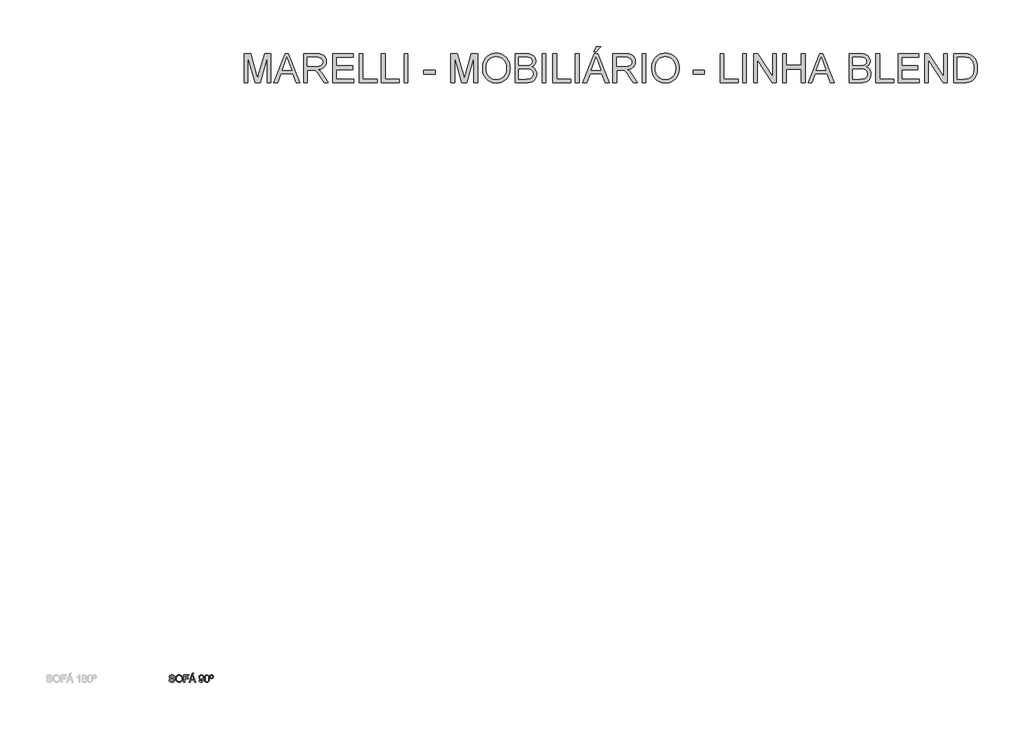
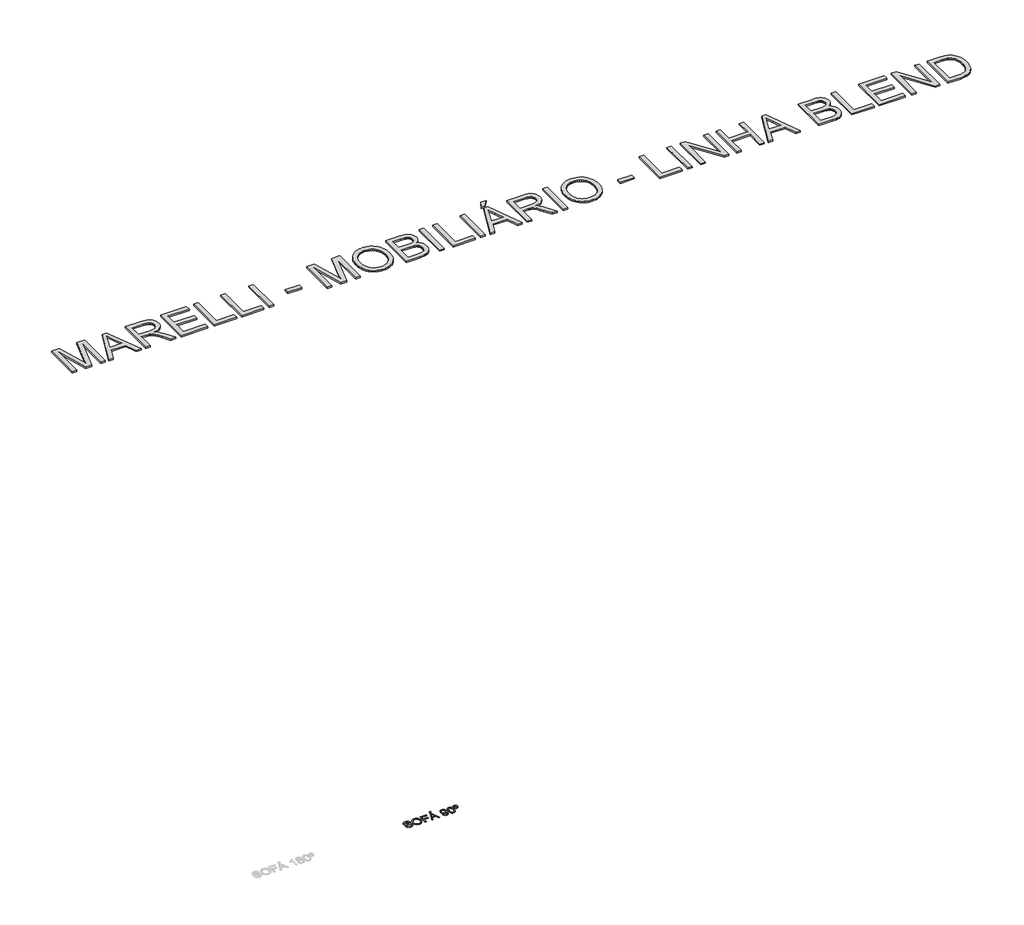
# One storey, part 4 of 4: 2 proxies.
"""IFC4 building model written with IfcOpenShell, lengths in millimetres."""

from ifc_helpers import new_model, si_unit, origin, origin_with_axes, place, context, project, spatial, polyline, outline, extrude, element, save

model = new_model("IFC4")

# Units and contexts
model_context = context("Model", 3, world=origin())
ifc_project = project(units=[si_unit("LENGTHUNIT", "METRE", prefix="MILLI")], contexts=[model_context])

# Site, building, storey
site = spatial("IfcSite", under=ifc_project)
building = spatial("IfcBuilding", under=site)
storey = spatial("IfcBuildingStorey", under=building, Name="Marelli - Linha BLEND - Planta Baixa", Elevation=0.0)

# Proxies
placement = place(None, origin())
element("IfcBuildingElementProxy", 1, Name="1200mm Arial", ObjectType="1200mm Arial", at=placement, inside=storey, context=model_context, shape_type="SweptSolid", body=[
    extrude(outline(polyline([(8126.2755525, 30769.4336799), (8126.2755525, 31974.9094017), (8385.5587827, 31974.9094017), (8632.1868722, 31125.2491457), (8681.924518, 30947.7828712), (8735.7824421, 31139.9644255), (8978.2902533, 31974.9094017), (9237.5734835, 31974.9094017), (9237.5734835, 30769.4336799), (9086.8890183, 30769.4336799), (9086.8890183, 31824.2249365), (8784.0485598, 30769.4336799), (8579.8004761, 30769.4336799), (8276.9600177, 31824.2249365), (8276.9600177, 30769.4336799), (8126.2755525, 30769.4336799)])), origin_with_axes(), (0.0, 0.0, 1.0), 50.0),
    extrude(outline(polyline([(9360.8875283, 30769.4336799), (9842.077178, 31974.9094017), (9970.3944179, 31974.9094017), (10451.5840676, 30769.4336799), (10292.3647401, 30769.4336799), (10154.3354155, 31146.144843), (9657.8418748, 31146.144843), (9520.1068558, 30769.4336799), (9360.8875283, 30769.4336799)]), holes=[polyline([(9713.1713269, 31296.8293082), (10099.300269, 31296.8293082), (9990.701504, 31593.1950435), (9906.2357979, 31824.2249365), (9831.1878709, 31619.093936), (9713.1713269, 31296.8293082)])]), origin_with_axes(), (0.0, 0.0, 1.0), 50.0),
    extrude(outline(polyline([(10612.5692287, 30769.4336799), (10612.5692287, 31974.9094017), (11132.0186059, 31974.9094017), (11206.5790892, 31972.8768537), (11271.629823, 31966.7792096), (11327.1708073, 31956.6164695), (11373.2020419, 31942.3886334), (11412.3998685, 31923.0012522), (11447.4406285, 31897.3598771), (11478.324322, 31865.4645082), (11505.050949, 31827.3151453), (11526.6180309, 31784.9627306), (11542.0230895, 31740.4582062), (11551.2661246, 31693.8015722), (11554.3471363, 31644.9928285), (11549.2427736, 31583.0782887), (11533.9296856, 31526.2405204), (11508.4078722, 31474.4795237), (11472.6773334, 31427.7952985), (11450.8688289, 31406.7294558), (11426.2782168, 31387.6777669), (11368.7506698, 31355.616851), (11300.0946924, 31331.6125509), (11220.3102847, 31315.6648664), (11269.9743541, 31283.2176744), (11305.9532132, 31251.2119408), (11367.683812, 31178.0034238), (11428.0900356, 31096.1128916), (11629.1007577, 30769.4336799), (11453.988928, 30769.4336799), (11297.1240453, 31019.2991311), (11234.3633769, 31114.6541442), (11183.8163908, 31184.6988761), (11141.6939023, 31232.9282057), (11104.206727, 31262.8370119), (11068.7061145, 31280.384983), (11032.5433144, 31291.5318075), (10997.3002192, 31295.504933), (10945.1345523, 31296.8293082), (10763.2536939, 31296.8293082), (10763.2536939, 30769.4336799), (10612.5692287, 30769.4336799)]), holes=[polyline([(10763.2536939, 31447.5137734), (11100.5279071, 31447.5137734), (11197.3912364, 31452.8480624), (11237.6835119, 31459.5159235), (11272.549528, 31468.8509292), (11302.7710339, 31481.1197937), (11329.1297789, 31496.5892316), (11351.6257629, 31515.2592429), (11370.2589859, 31537.1298275), (11384.8730982, 31561.1249306), (11395.3117498, 31586.1684974), (11401.5749408, 31612.2605279), (11403.6626711, 31639.4010221), (11399.6803485, 31677.9366611), (11387.7333807, 31712.9038448), (11367.8217677, 31744.3025731), (11339.9455095, 31772.132846), (11303.4608127, 31794.9231356), (11257.7238836, 31811.2019139), (11202.7347224, 31820.9691808), (11138.493329, 31824.2249365), (10763.2536939, 31824.2249365), (10763.2536939, 31447.5137734)])]), origin_with_axes(), (0.0, 0.0, 1.0), 50.0),
    extrude(outline(polyline([(11818.0449505, 30769.4336799), (11818.0449505, 31974.9094017), (12684.4806255, 31974.9094017), (12684.4806255, 31824.2249365), (11968.7294157, 31824.2249365), (11968.7294157, 31466.3493316), (12646.8095092, 31466.3493316), (12646.8095092, 31315.6648664), (11968.7294157, 31315.6648664), (11968.7294157, 30920.1181452), (12703.3161837, 30920.1181452), (12703.3161837, 30769.4336799), (11818.0449505, 30769.4336799)])), origin_with_axes(), (0.0, 0.0, 1.0), 50.0),
    extrude(outline(polyline([(12929.3428815, 30769.4336799), (12929.3428815, 31974.9094017), (13080.0273467, 31974.9094017), (13080.0273467, 30920.1181452), (13682.7652076, 30920.1181452), (13682.7652076, 30769.4336799), (12929.3428815, 30769.4336799)])), origin_with_axes(), (0.0, 0.0, 1.0), 50.0),
    extrude(outline(polyline([(13852.285231, 30769.4336799), (13852.285231, 31974.9094017), (14002.9696962, 31974.9094017), (14002.9696962, 30920.1181452), (14605.7075571, 30920.1181452), (14605.7075571, 30769.4336799), (13852.285231, 30769.4336799)])), origin_with_axes(), (0.0, 0.0, 1.0), 50.0),
    extrude(outline(polyline([(14794.0631387, 30769.4336799), (14794.0631387, 31974.9094017), (14944.7476039, 31974.9094017), (14944.7476039, 30769.4336799), (14794.0631387, 30769.4336799)])), origin_with_axes(), (0.0, 0.0, 1.0), 50.0),
    extrude(outline(polyline([(15622.8276974, 31127.3092848), (15622.8276974, 31277.9937501), (16093.7166512, 31277.9937501), (16093.7166512, 31127.3092848), (15622.8276974, 31127.3092848)])), origin_with_axes(), (0.0, 0.0, 1.0), 50.0),
    extrude(outline(polyline([(16752.9611866, 30769.4336799), (16752.9611866, 31974.9094017), (17012.2444168, 31974.9094017), (17258.8725063, 31125.2491457), (17308.6101521, 30947.7828712), (17362.4680762, 31139.9644255), (17604.9758874, 31974.9094017), (17864.2591176, 31974.9094017), (17864.2591176, 30769.4336799), (17713.5746524, 30769.4336799), (17713.5746524, 31824.2249365), (17410.7341939, 30769.4336799), (17206.4861102, 30769.4336799), (16903.6456518, 31824.2249365), (16903.6456518, 30769.4336799), (16752.9611866, 30769.4336799)])), origin_with_axes(), (0.0, 0.0, 1.0), 50.0),
    extrude(outline(polyline([(18071.4502573, 31356.2790386), (18073.9610519, 31429.0047106), (18081.4934358, 31497.6744835), (18094.0474088, 31562.2883574), (18111.6229712, 31622.8463323), (18134.2201227, 31679.3484083), (18161.8388635, 31731.7945852), (18194.4791935, 31780.1848632), (18232.1411128, 31824.5192421), (18273.7715591, 31864.1815197), (18318.3174701, 31898.5554936), (18365.778846, 31927.6411639), (18416.1556868, 31951.4385304), (18469.4479923, 31969.9475933), (18525.6557626, 31983.1683525), (18584.7789978, 31991.100808), (18646.8176977, 31993.7449599), (18727.9172836, 31988.7785529), (18804.9333793, 31973.8793321), (18877.8659848, 31949.0472975), (18946.7151002, 31914.2824489), (19009.549345, 31870.6332502), (19064.4373387, 31819.148165), (19111.3790812, 31759.8271932), (19150.3745727, 31692.670335), (19181.0191429, 31619.2043006), (19202.9081216, 31540.9558002), (19216.0415089, 31457.9248339), (19220.4193046, 31370.1114017), (19215.8115826, 31281.1391411), (19201.9884167, 31196.9861347), (19178.9498067, 31117.6523825), (19146.6957528, 31043.1378843), (19105.98961, 30975.410809), (19057.5947336, 30916.4393252), (19001.5111234, 30866.2234329), (18937.7387795, 30824.763132), (18868.7884966, 30792.31594), (18797.1710692, 30769.1393743), (18722.8864973, 30755.2334349), (18645.934781, 30750.5981218), (18563.4188494, 30755.7208786), (18485.3910783, 30771.0891489), (18411.8514674, 30796.7029328), (18342.8000169, 30832.5622303), (18280.0393485, 30877.2782868), (18225.3720841, 30929.4623478), (18178.7982235, 30989.1144134), (18140.3177668, 31056.2344834), (18110.1882314, 31128.1278223), (18088.6671347, 31202.0996945), (18075.7544766, 31278.1500999), (18071.4502573, 31356.2790386)]), holes=[polyline([(18222.1347225, 31354.8075107), (18224.0178185, 31303.4557827), (18229.6671064, 31254.9091549), (18239.0825862, 31209.1676273), (18252.2642579, 31166.2311999), (18269.2121216, 31126.0998728), (18289.9261772, 31088.7736458), (18314.4064247, 31054.2525191), (18342.6528641, 31022.5364926), (18373.741192, 30994.1176085), (18406.7471047, 30969.4879089), (18441.6706024, 30948.6473939), (18478.5116849, 30931.5960634), (18517.2703524, 30918.3339175), (18557.9466048, 30908.8609561), (18600.540442, 30903.1771793), (18645.0518642, 30901.282587), (18690.3772252, 30903.1955734), (18733.6470457, 30908.9345325), (18774.8613254, 30918.4994644), (18814.0200645, 30931.890369), (18851.123263, 30949.1072464), (18886.1709209, 30970.1500965), (18919.163038, 30995.0189194), (18950.0996146, 31023.713715), (18978.1391204, 31055.9263822), (19002.4400254, 31091.3488198), (19023.0023297, 31129.9810278), (19039.8260332, 31171.8230063), (19052.9111359, 31216.8747551), (19062.2576378, 31265.1362743), (19067.865539, 31316.607564), (19069.7348394, 31371.288624), (19066.534266, 31440.248104), (19056.932546, 31504.6826355), (19040.9296792, 31564.5922184), (19018.5256657, 31619.9768528), (18989.9688258, 31670.1099717), (18955.5074799, 31714.2650081), (18915.141628, 31752.4419622), (18868.87127, 31784.6408338), (18818.1311458, 31810.1994354), (18764.3559952, 31828.4555794), (18707.5458181, 31839.4092659), (18647.7006145, 31843.0604947), (18604.9021429, 31841.3015589), (18563.6211845, 31836.0247515), (18523.8577394, 31827.2300726), (18485.6118075, 31814.917522), (18448.8833888, 31799.0870999), (18413.6724833, 31779.7388062), (18379.9790911, 31756.872641), (18347.8032121, 31730.4886041), (18318.3496598, 31699.993486), (18292.8232479, 31664.7940768), (18271.2239762, 31624.8903767), (18253.5518449, 31580.2823855), (18239.8068539, 31530.9701033), (18229.9890031, 31476.9535301), (18224.0982927, 31418.2326659), (18222.1347225, 31354.8075107)])]), origin_with_axes(), (0.0, 0.0, 1.0), 50.0),
    extrude(outline(polyline([(19427.6104443, 30769.4336799), (19427.6104443, 31974.9094017), (19887.6100911, 31974.9094017), (19954.3346879, 31972.6929127), (20014.1247092, 31966.0434456), (20066.9801549, 31954.9610005), (20112.9010249, 31939.4455774), (20153.0553447, 31919.3316293), (20188.6111395, 31894.4536094), (20219.5684094, 31864.8115176), (20245.9271544, 31830.405354), (20266.9792015, 31793.1756961), (20282.0163781, 31755.0631214), (20291.038684, 31716.0676299), (20294.0461193, 31676.1892216), (20291.5169306, 31639.3550369), (20283.9293645, 31603.606104), (20271.2834209, 31568.942423), (20253.5790999, 31535.3639939), (20230.7612191, 31503.9192804), (20202.7745963, 31475.6567461), (20169.6192315, 31450.5763911), (20131.2951247, 31428.6782153), (20176.7745363, 31409.2908341), (20216.6805358, 31384.0909175), (20251.013123, 31353.0784653), (20279.7722979, 31316.2534776), (20302.4982082, 31274.7379944), (20318.7310012, 31229.6540559), (20328.470677, 31181.001662), (20331.7172356, 31128.7808128), (20329.5007466, 31085.9869397), (20322.8512796, 31044.7197769), (20311.7688345, 31004.9793244), (20296.2534113, 30966.7655821), (20277.4638384, 30931.4673047), (20256.558944, 30900.4732466), (20233.5387282, 30873.7834079), (20208.4031909, 30851.3977885), (20180.5637209, 30832.3966834), (20149.431707, 30815.8603877), (20115.0071493, 30801.7889014), (20077.2900478, 30790.1822245), (20035.6917912, 30781.1047362), (19989.6237683, 30774.6208161), (19884.0784239, 30769.4336799), (19427.6104443, 30769.4336799)]), holes=[polyline([(19578.2949095, 31485.1848897), (19853.4706419, 31485.1848897), (19949.7085719, 31488.4222513), (20014.1614974, 31498.134336), (20044.2634417, 31507.9108), (20070.4106545, 31520.4647731), (20092.6031358, 31535.7962552), (20110.8408857, 31553.9052464), (20125.0687219, 31574.662988), (20135.231462, 31597.9407213), (20141.3291061, 31623.7384462), (20143.3616541, 31652.0561628), (20141.4670618, 31679.1690658), (20135.783285, 31704.5897117), (20126.3103236, 31728.3181004), (20113.0481777, 31750.3542319), (20096.2543646, 31769.8795688), (20076.1864018, 31786.0755736), (20052.8442892, 31798.9422464), (20026.2280269, 31808.4795871), (19992.9347063, 31815.3681775), (19949.5614191, 31820.2885992), (19832.5749446, 31824.2249365), (19578.2949095, 31824.2249365), (19578.2949095, 31485.1848897)]), polyline([(19578.2949095, 30920.1181452), (19887.3157855, 30920.1181452), (19955.0060726, 30921.5896731), (19999.151912, 30926.0042571), (20051.0600615, 30939.0640679), (20093.7711612, 30958.819331), (20128.4992215, 30987.1094565), (20156.4582531, 31025.7738542), (20167.2096045, 31048.5641438), (20174.8891411, 31073.0834788), (20179.4968631, 31099.3318591), (20181.0327704, 31127.3092848), (20179.2301486, 31159.9036296), (20173.8222833, 31190.2906824), (20164.8091744, 31218.4704432), (20152.190822, 31244.4429121), (20135.5349647, 31267.463128), (20114.4093411, 31286.7861297), (20088.8139513, 31302.4119175), (20058.7487952, 31314.3404912), (20022.8894977, 31323.160462), (19979.9116837, 31329.4604412), (19872.6005057, 31334.5004245), (19578.2949095, 31334.5004245), (19578.2949095, 30920.1181452)])]), origin_with_axes(), (0.0, 0.0, 1.0), 50.0),
    extrude(outline(polyline([(20557.7439335, 30769.4336799), (20557.7439335, 31974.9094017), (20708.4283987, 31974.9094017), (20708.4283987, 30769.4336799), (20557.7439335, 30769.4336799)])), origin_with_axes(), (0.0, 0.0, 1.0), 50.0),
    extrude(outline(polyline([(21009.7973292, 30769.4336799), (21009.7973292, 31974.9094017), (21160.4817944, 31974.9094017), (21160.4817944, 30920.1181452), (21763.2196553, 30920.1181452), (21763.2196553, 30769.4336799), (21009.7973292, 30769.4336799)])), origin_with_axes(), (0.0, 0.0, 1.0), 50.0),
    extrude(outline(polyline([(21951.5752368, 30769.4336799), (21951.5752368, 31974.9094017), (22102.259702, 31974.9094017), (22102.259702, 30769.4336799), (21951.5752368, 30769.4336799)])), origin_with_axes(), (0.0, 0.0, 1.0), 50.0),
    extrude(outline(polyline([(22263.2448631, 30769.4336799), (22744.4345128, 31974.9094017), (22872.7517527, 31974.9094017), (23353.9414024, 30769.4336799), (23194.7220749, 30769.4336799), (23056.6927503, 31146.144843), (22560.1992096, 31146.144843), (22422.4641906, 30769.4336799), (22263.2448631, 30769.4336799)]), holes=[polyline([(22615.5286617, 31296.8293082), (23001.6576038, 31296.8293082), (22893.0588389, 31593.1950435), (22808.5931328, 31824.2249365), (22733.5452058, 31619.093936), (22615.5286617, 31296.8293082)])]), origin_with_axes(), (0.0, 0.0, 1.0), 50.0),
    extrude(outline(polyline([(22704.9975629, 32050.2516343), (22818.0109119, 32276.2783322), (23006.3664934, 32276.2783322), (22818.0109119, 32050.2516343), (22704.9975629, 32050.2516343)])), origin_with_axes(), (0.0, 0.0, 1.0), 50.0),
    extrude(outline(polyline([(23514.9265635, 30769.4336799), (23514.9265635, 31974.9094017), (24034.3759407, 31974.9094017), (24108.9364241, 31972.8768537), (24173.9871579, 31966.7792096), (24229.5281421, 31956.6164695), (24275.5593767, 31942.3886334), (24314.7572033, 31923.0012522), (24349.7979634, 31897.3598771), (24380.6816569, 31865.4645082), (24407.4082838, 31827.3151453), (24428.9753658, 31784.9627306), (24444.3804243, 31740.4582062), (24453.6234595, 31693.8015722), (24456.7044712, 31644.9928285), (24451.6001085, 31583.0782887), (24436.2870204, 31526.2405204), (24410.765207, 31474.4795237), (24375.0346682, 31427.7952985), (24353.2261637, 31406.7294558), (24328.6355516, 31387.6777669), (24271.1080046, 31355.616851), (24202.4520273, 31331.6125509), (24122.6676195, 31315.6648664), (24172.3316889, 31283.2176744), (24208.310548, 31251.2119408), (24270.0411468, 31178.0034238), (24330.4473704, 31096.1128916), (24531.4580926, 30769.4336799), (24356.3462629, 30769.4336799), (24199.4813801, 31019.2991311), (24136.7207118, 31114.6541442), (24086.1737256, 31184.6988761), (24044.0512372, 31232.9282057), (24006.5640619, 31262.8370119), (23971.0634493, 31280.384983), (23934.9006492, 31291.5318075), (23899.6575541, 31295.504933), (23847.4918872, 31296.8293082), (23665.6110287, 31296.8293082), (23665.6110287, 30769.4336799), (23514.9265635, 30769.4336799)]), holes=[polyline([(23665.6110287, 31447.5137734), (24002.8852419, 31447.5137734), (24099.7485712, 31452.8480624), (24140.0408468, 31459.5159235), (24174.9068629, 31468.8509292), (24205.1283688, 31481.1197937), (24231.4871137, 31496.5892316), (24253.9830977, 31515.2592429), (24272.6163208, 31537.1298275), (24287.230433, 31561.1249306), (24297.6690847, 31586.1684974), (24303.9322756, 31612.2605279), (24306.0200059, 31639.4010221), (24302.0376833, 31677.9366611), (24290.0907156, 31712.9038448), (24270.1791026, 31744.3025731), (24242.3028444, 31772.132846), (24205.8181475, 31794.9231356), (24160.0812185, 31811.2019139), (24105.0920572, 31820.9691808), (24040.8506638, 31824.2249365), (23665.6110287, 31824.2249365), (23665.6110287, 31447.5137734)])]), origin_with_axes(), (0.0, 0.0, 1.0), 50.0),
    extrude(outline(polyline([(24739.2378435, 30769.4336799), (24739.2378435, 31974.9094017), (24889.9223087, 31974.9094017), (24889.9223087, 30769.4336799), (24739.2378435, 30769.4336799)])), origin_with_axes(), (0.0, 0.0, 1.0), 50.0),
    extrude(outline(polyline([(25134.7845647, 31356.2790386), (25137.2953593, 31429.0047106), (25144.8277431, 31497.6744835), (25157.3817162, 31562.2883574), (25174.9572786, 31622.8463323), (25197.5544301, 31679.3484083), (25225.1731709, 31731.7945852), (25257.8135009, 31780.1848632), (25295.4754202, 31824.5192421), (25337.1058664, 31864.1815197), (25381.6517775, 31898.5554936), (25429.1131534, 31927.6411639), (25479.4899942, 31951.4385304), (25532.7822997, 31969.9475933), (25588.99007, 31983.1683525), (25648.1133052, 31991.100808), (25710.1520051, 31993.7449599), (25791.251591, 31988.7785529), (25868.2676867, 31973.8793321), (25941.2002922, 31949.0472975), (26010.0494076, 31914.2824489), (26072.8836524, 31870.6332502), (26127.7716461, 31819.148165), (26174.7133886, 31759.8271932), (26213.7088801, 31692.670335), (26244.3534503, 31619.2043006), (26266.242429, 31540.9558002), (26279.3758163, 31457.9248339), (26283.753612, 31370.1114017), (26279.14589, 31281.1391411), (26265.3227241, 31196.9861347), (26242.2841141, 31117.6523825), (26210.0300602, 31043.1378843), (26169.3239174, 30975.410809), (26120.9290409, 30916.4393252), (26064.8454308, 30866.2234329), (26001.0730869, 30824.763132), (25932.122804, 30792.31594), (25860.5053766, 30769.1393743), (25786.2208047, 30755.2334349), (25709.2690883, 30750.5981218), (25626.7531568, 30755.7208786), (25548.7253857, 30771.0891489), (25475.1857748, 30796.7029328), (25406.1343243, 30832.5622303), (25343.3736559, 30877.2782868), (25288.7063915, 30929.4623478), (25242.1325309, 30989.1144134), (25203.6520742, 31056.2344834), (25173.5225388, 31128.1278223), (25152.0014421, 31202.0996945), (25139.088784, 31278.1500999), (25134.7845647, 31356.2790386)]), holes=[polyline([(25285.4690299, 31354.8075107), (25287.3521259, 31303.4557827), (25293.0014138, 31254.9091549), (25302.4168936, 31209.1676273), (25315.5985653, 31166.2311999), (25332.546429, 31126.0998728), (25353.2604846, 31088.7736458), (25377.7407321, 31054.2525191), (25405.9871715, 31022.5364926), (25437.0754994, 30994.1176085), (25470.0814121, 30969.4879089), (25505.0049098, 30948.6473939), (25541.8459923, 30931.5960634), (25580.6046598, 30918.3339175), (25621.2809121, 30908.8609561), (25663.8747494, 30903.1771793), (25708.3861716, 30901.282587), (25753.7115326, 30903.1955734), (25796.981353, 30908.9345325), (25838.1956328, 30918.4994644), (25877.3543719, 30931.890369), (25914.4575704, 30949.1072464), (25949.5052282, 30970.1500965), (25982.4973454, 30995.0189194), (26013.433922, 31023.713715), (26041.4734278, 31055.9263822), (26065.7743328, 31091.3488198), (26086.3366371, 31129.9810278), (26103.1603406, 31171.8230063), (26116.2454433, 31216.8747551), (26125.5919452, 31265.1362743), (26131.1998464, 31316.607564), (26133.0691468, 31371.288624), (26129.8685734, 31440.248104), (26120.2668534, 31504.6826355), (26104.2639866, 31564.5922184), (26081.8599731, 31619.9768528), (26053.3031332, 31670.1099717), (26018.8417873, 31714.2650081), (25978.4759354, 31752.4419622), (25932.2055774, 31784.6408338), (25881.4654532, 31810.1994354), (25827.6903026, 31828.4555794), (25770.8801255, 31839.4092659), (25711.0349219, 31843.0604947), (25668.2364503, 31841.3015589), (25626.9554919, 31836.0247515), (25587.1920468, 31827.2300726), (25548.9461148, 31814.917522), (25512.2176962, 31799.0870999), (25477.0067907, 31779.7388062), (25443.3133985, 31756.872641), (25411.1375195, 31730.4886041), (25381.6839672, 31699.993486), (25356.1575553, 31664.7940768), (25334.5582836, 31624.8903767), (25316.8861523, 31580.2823855), (25303.1411612, 31530.9701033), (25293.3233105, 31476.9535301), (25287.4326001, 31418.2326659), (25285.4690299, 31354.8075107)])]), origin_with_axes(), (0.0, 0.0, 1.0), 50.0),
    extrude(outline(polyline([(26867.6559148, 31127.3092848), (26867.6559148, 31277.9937501), (27338.5448686, 31277.9937501), (27338.5448686, 31127.3092848), (26867.6559148, 31127.3092848)])), origin_with_axes(), (0.0, 0.0, 1.0), 50.0),
    extrude(outline(polyline([(27997.7894039, 30769.4336799), (27997.7894039, 31974.9094017), (28148.4738692, 31974.9094017), (28148.4738692, 30920.1181452), (28751.2117301, 30920.1181452), (28751.2117301, 30769.4336799), (27997.7894039, 30769.4336799)])), origin_with_axes(), (0.0, 0.0, 1.0), 50.0),
    extrude(outline(polyline([(28939.5673116, 30769.4336799), (28939.5673116, 31974.9094017), (29090.2517768, 31974.9094017), (29090.2517768, 30769.4336799), (28939.5673116, 30769.4336799)])), origin_with_axes(), (0.0, 0.0, 1.0), 50.0),
    extrude(outline(polyline([(29391.6207073, 30769.4336799), (29391.6207073, 31974.9094017), (29552.900174, 31974.9094017), (30182.7141497, 31019.8877422), (30182.7141497, 31974.9094017), (30333.3986149, 31974.9094017), (30333.3986149, 30769.4336799), (30172.1191482, 30769.4336799), (29542.3051725, 31724.749645), (29542.3051725, 30769.4336799), (29391.6207073, 30769.4336799)])), origin_with_axes(), (0.0, 0.0, 1.0), 50.0),
    extrude(outline(polyline([(30597.0964291, 30769.4336799), (30597.0964291, 31974.9094017), (30747.7808943, 31974.9094017), (30747.7808943, 31485.1848897), (31388.1898715, 31485.1848897), (31388.1898715, 31974.9094017), (31538.8743367, 31974.9094017), (31538.8743367, 30769.4336799), (31388.1898715, 30769.4336799), (31388.1898715, 31334.5004245), (30747.7808943, 31334.5004245), (30747.7808943, 30769.4336799), (30597.0964291, 30769.4336799)])), origin_with_axes(), (0.0, 0.0, 1.0), 50.0),
    extrude(outline(polyline([(31662.1883815, 30769.4336799), (32143.3780312, 31974.9094017), (32271.6952711, 31974.9094017), (32752.8849208, 30769.4336799), (32593.6655933, 30769.4336799), (32455.6362687, 31146.144843), (31959.142728, 31146.144843), (31821.407709, 30769.4336799), (31662.1883815, 30769.4336799)]), holes=[polyline([(32014.4721801, 31296.8293082), (32400.6011222, 31296.8293082), (32292.0023572, 31593.1950435), (32207.5366511, 31824.2249365), (32132.4887241, 31619.093936), (32014.4721801, 31296.8293082)])]), origin_with_axes(), (0.0, 0.0, 1.0), 50.0),
    extrude(outline(polyline([(33384.7590357, 30769.4336799), (33384.7590357, 31974.9094017), (33844.7586825, 31974.9094017), (33911.4832794, 31972.6929127), (33971.2733006, 31966.0434456), (34024.1287463, 31954.9610005), (34070.0496163, 31939.4455774), (34110.2039361, 31919.3316293), (34145.7597309, 31894.4536094), (34176.7170008, 31864.8115176), (34203.0757458, 31830.405354), (34224.127793, 31793.1756961), (34239.1649695, 31755.0631214), (34248.1872754, 31716.0676299), (34251.1947108, 31676.1892216), (34248.665522, 31639.3550369), (34241.0779559, 31603.606104), (34228.4320123, 31568.942423), (34210.7276913, 31535.3639939), (34187.9098105, 31503.9192804), (34159.9231878, 31475.6567461), (34126.7678229, 31450.5763911), (34088.4437161, 31428.6782153), (34133.9231277, 31409.2908341), (34173.8291272, 31384.0909175), (34208.1617144, 31353.0784653), (34236.9208893, 31316.2534776), (34259.6467996, 31274.7379944), (34275.8795926, 31229.6540559), (34285.6192685, 31181.001662), (34288.8658271, 31128.7808128), (34286.649338, 31085.9869397), (34279.999871, 31044.7197769), (34268.9174259, 31004.9793244), (34253.4020027, 30966.7655821), (34234.6124298, 30931.4673047), (34213.7075354, 30900.4732466), (34190.6873196, 30873.7834079), (34165.5517823, 30851.3977885), (34137.7123123, 30832.3966834), (34106.5802985, 30815.8603877), (34072.1557408, 30801.7889014), (34034.4386392, 30790.1822245), (33992.8403826, 30781.1047362), (33946.7723597, 30774.6208161), (33841.2270153, 30769.4336799), (33384.7590357, 30769.4336799)]), holes=[polyline([(33535.4435009, 31485.1848897), (33810.6192333, 31485.1848897), (33906.8571633, 31488.4222513), (33971.3100888, 31498.134336), (34001.4120331, 31507.9108), (34027.5592459, 31520.4647731), (34049.7517272, 31535.7962552), (34067.9894772, 31553.9052464), (34082.2173133, 31574.662988), (34092.3800534, 31597.9407213), (34098.4776975, 31623.7384462), (34100.5102455, 31652.0561628), (34098.6156533, 31679.1690658), (34092.9318764, 31704.5897117), (34083.4589151, 31728.3181004), (34070.1967691, 31750.3542319), (34053.402956, 31769.8795688), (34033.3349932, 31786.0755736), (34009.9928806, 31798.9422464), (33983.3766183, 31808.4795871), (33950.0832977, 31815.3681775), (33906.7100105, 31820.2885992), (33789.723536, 31824.2249365), (33535.4435009, 31824.2249365), (33535.4435009, 31485.1848897)]), polyline([(33535.4435009, 30920.1181452), (33844.4643769, 30920.1181452), (33912.154664, 30921.5896731), (33956.3005034, 30926.0042571), (34008.2086529, 30939.0640679), (34050.9197526, 30958.819331), (34085.6478129, 30987.1094565), (34113.6068446, 31025.7738542), (34124.3581959, 31048.5641438), (34132.0377325, 31073.0834788), (34136.6454545, 31099.3318591), (34138.1813618, 31127.3092848), (34136.3787401, 31159.9036296), (34130.9708747, 31190.2906824), (34121.9577658, 31218.4704432), (34109.3394134, 31244.4429121), (34092.6835561, 31267.463128), (34071.5579325, 31286.7861297), (34045.9625427, 31302.4119175), (34015.8973866, 31314.3404912), (33980.0380892, 31323.160462), (33937.0602751, 31329.4604412), (33829.7490971, 31334.5004245), (33535.4435009, 31334.5004245), (33535.4435009, 30920.1181452)])]), origin_with_axes(), (0.0, 0.0, 1.0), 50.0),
    extrude(outline(polyline([(34496.0569667, 30769.4336799), (34496.0569667, 31974.9094017), (34646.741432, 31974.9094017), (34646.741432, 30920.1181452), (35249.4792929, 30920.1181452), (35249.4792929, 30769.4336799), (34496.0569667, 30769.4336799)])), origin_with_axes(), (0.0, 0.0, 1.0), 50.0),
    extrude(outline(polyline([(35418.9993162, 30769.4336799), (35418.9993162, 31974.9094017), (36285.4349913, 31974.9094017), (36285.4349913, 31824.2249365), (35569.6837815, 31824.2249365), (35569.6837815, 31466.3493316), (36247.763875, 31466.3493316), (36247.763875, 31315.6648664), (35569.6837815, 31315.6648664), (35569.6837815, 30920.1181452), (36304.2705494, 30920.1181452), (36304.2705494, 30769.4336799), (35418.9993162, 30769.4336799)])), origin_with_axes(), (0.0, 0.0, 1.0), 50.0),
    extrude(outline(polyline([(36530.2972473, 30769.4336799), (36530.2972473, 31974.9094017), (36691.576714, 31974.9094017), (37321.3906897, 31019.8877422), (37321.3906897, 31974.9094017), (37472.0751549, 31974.9094017), (37472.0751549, 30769.4336799), (37310.7956882, 30769.4336799), (36680.9817125, 31724.749645), (36680.9817125, 30769.4336799), (36530.2972473, 30769.4336799)])), origin_with_axes(), (0.0, 0.0, 1.0), 50.0),
    extrude(outline(polyline([(37735.7729691, 30769.4336799), (37735.7729691, 31974.9094017), (38151.6267764, 31974.9094017), (38275.8973144, 31970.5683942), (38325.5062014, 31965.1421348), (38366.7641672, 31957.5453716), (38416.6857539, 31943.2163678), (38462.8549443, 31924.06811), (38505.2717384, 31900.100598), (38543.9361361, 31871.3138319), (38588.6154044, 31828.1980621), (38627.2981962, 31779.4904859), (38659.9845115, 31725.1911034), (38686.6743502, 31665.2999146), (38707.4045006, 31600.3687424), (38722.2117509, 31530.9494099), (38731.0961011, 31457.0419171), (38734.0575512, 31378.6462639), (38732.0525943, 31312.0136376), (38726.0377237, 31249.2621662), (38716.0129393, 31190.39185), (38701.9782412, 31135.4026887), (38684.798152, 31084.6441704), (38665.3371945, 31038.465783), (38643.5953686, 30996.8675264), (38619.5726743, 30959.8494006), (38593.8209346, 30926.9699473), (38566.8919726, 30897.787708), (38538.7857881, 30872.3026828), (38509.5023813, 30850.5148717), (38478.094456, 30831.7804811), (38443.614716, 30815.4557175), (38406.0631613, 30801.5405811), (38365.439792, 30790.0350717), (38274.8304566, 30774.5840279), (38171.639557, 30769.4336799), (37735.7729691, 30769.4336799)]), holes=[polyline([(37886.4574343, 30920.1181452), (38153.0983044, 30920.1181452), (38263.3893266, 30925.5627987), (38308.5468415, 30932.3686156), (38347.0456923, 30941.8967593), (38380.4125892, 30953.9081064), (38410.1742426, 30968.1635337), (38436.3306525, 30984.6630412), (38458.8818188, 31003.4066289), (38486.6845006, 31033.6189377), (38511.2314267, 31068.6321066), (38532.5225972, 31108.4461355), (38550.558012, 31153.0610245), (38564.9146068, 31202.568744), (38575.1693175, 31257.0612645), (38581.3221438, 31316.5385861), (38583.373086, 31381.0007087), (38579.3539752, 31468.4830472), (38567.2966428, 31545.2232314), (38547.2010888, 31611.2212613), (38519.0673132, 31666.477137), (38485.1761844, 31712.2416572), (38447.8085707, 31749.7656207), (38406.9644722, 31779.0490275), (38362.6438889, 31800.0918776), (38324.3473732, 31810.6500909), (38275.9708908, 31818.1916718), (38217.5144418, 31822.7166203), (38148.9780261, 31824.2249365), (37886.4574343, 31824.2249365), (37886.4574343, 30920.1181452)])]), origin_with_axes(), (0.0, 0.0, 1.0), 50.0),
])
element("IfcBuildingElementProxy", 2, Name="300mm Arial", ObjectType="300mm Arial", at=placement, inside=storey, context=model_context, shape_type="SweptSolid", body=[
    extrude(outline(polyline([(4986.0341994, 5823.0292498), (5023.7053157, 5823.0292498), (5028.0279292, 5802.1243554), (5035.8454216, 5785.3213453), (5048.0407097, 5771.9856229), (5065.4967104, 5761.482592), (5086.8338661, 5754.667578), (5110.6726194, 5752.3959067), (5131.6602872, 5754.115755), (5150.0359929, 5759.2753), (5164.9260166, 5767.4422803), (5175.4566387, 5778.1844346), (5181.7198297, 5790.5176784), (5183.80756, 5803.4579276), (5182.2440615, 5816.067083), (5177.5535661, 5826.9655871), (5168.0254224, 5836.2638046), (5151.9489792, 5844.0720999), (5097.0977737, 5858.4562859), (5061.0913235, 5867.9752325), (5038.0527135, 5877.0343267), (5019.2999288, 5889.7078614), (5006.0101917, 5905.0669347), (4998.0915318, 5922.7804528), (4995.4519785, 5942.5173218), (4998.7169312, 5964.5810445), (5008.5117893, 5985.154845), (5024.5790355, 6002.5924516), (5046.6611522, 6015.2475923), (5073.16705, 6022.945523), (5102.5056391, 6025.5114999), (5134.2906435, 6022.8259614), (5162.1025223, 6014.7693457), (5184.9479942, 6001.5071997), (5201.8337778, 5983.2050705), (5212.5207497, 5961.0033921), (5216.7697868, 5936.0425987), (5179.0986705, 5936.0425987), (5172.182489, 5958.5201886), (5157.7615148, 5974.7437846), (5135.2287425, 5984.5662339), (5103.9771671, 5987.8403836), (5071.9898276, 5984.6030221), (5050.0456666, 5974.8909374), (5037.3537377, 5960.5987219), (5033.1230948, 5943.6209678), (5036.121333, 5929.1448113), (5045.1160478, 5917.5013461), (5066.3796272, 5907.0902857), (5106.6259174, 5896.458496), (5148.1597947, 5886.3601352), (5173.286135, 5877.5493615), (5194.7612464, 5863.8825453), (5209.7432407, 5847.0151559), (5218.5448174, 5827.131134), (5221.4786763, 5804.4144208), (5218.103359, 5781.1918699), (5207.9774071, 5759.3488764), (5191.5146878, 5740.5501065), (5169.1290684, 5726.460226), (5142.2093034, 5717.6586493), (5112.1441474, 5714.7247904), (5075.2363862, 5717.8885756), (5044.8585304, 5727.379931), (5020.6610922, 5743.235645), (5002.2945836, 5765.4925057), (4990.5039656, 5792.6054088), (4986.0341994, 5823.0292498)])), origin_with_axes(), (0.0, 0.0, 1.0), 10.0),
    extrude(outline(polyline([(5263.8586822, 5866.1450196), (5266.3694768, 5901.4938808), (5273.9018606, 5932.786843), (5286.4558337, 5960.0239063), (5304.031396, 5983.2050705), (5325.5754854, 6001.7141334), (5350.0350395, 6014.9348926), (5377.4100585, 6022.8673481), (5407.7005423, 6025.5114999), (5447.2294627, 6020.545093), (5482.6748929, 6005.6458722), (5512.1054525, 5981.8623012), (5533.589761, 5950.2428437), (5546.7231483, 5912.31421), (5551.100944, 5869.6031104), (5546.493222, 5826.3217936), (5532.670056, 5787.859731), (5510.3948012, 5756.1850913), (5480.4308127, 5733.266043), (5445.2888851, 5719.3601035), (5407.4798131, 5714.7247904), (5367.3438874, 5719.8475472), (5331.6961221, 5735.2158175), (5302.3391389, 5759.4408469), (5281.0755595, 5791.1338808), (5268.1629015, 5827.6001836), (5263.8586822, 5866.1450196)]), holes=[polyline([(5301.5297985, 5865.7771376), (5303.4128944, 5840.8025487), (5309.0621823, 5818.6330599), (5318.4776621, 5799.2686714), (5331.6593339, 5782.7093831), (5347.682894, 5769.4472372), (5365.6240391, 5759.9742758), (5385.482769, 5754.290499), (5407.2590839, 5752.3959067), (5429.4078793, 5754.3088931), (5449.501134, 5760.0478522), (5467.5388481, 5769.6127841), (5483.5210215, 5783.0036887), (5496.6061242, 5799.9124649), (5505.9526261, 5820.0310115), (5511.5605273, 5843.3593285), (5513.4298277, 5869.897416), (5510.2292543, 5903.2459188), (5500.6275343, 5932.0694731), (5484.8729878, 5955.641512), (5463.2139353, 5973.2354684), (5437.0851166, 5984.1891548), (5407.9212715, 5987.8403836), (5386.901414, 5986.0814478), (5367.3990697, 5980.8046405), (5349.4142387, 5972.0099615), (5332.9469209, 5959.697411), (5319.2019298, 5943.2737792), (5309.3840791, 5922.1458563), (5303.4933686, 5896.3136425), (5301.5297985, 5865.7771376)])]), origin_with_axes(), (0.0, 0.0, 1.0), 10.0),
    extrude(outline(polyline([(5602.8987289, 5719.4336799), (5602.8987289, 6020.8026104), (5805.3809791, 6020.8026104), (5805.3809791, 5983.1314941), (5640.5698452, 5983.1314941), (5640.5698452, 5893.6625928), (5781.8365314, 5893.6625928), (5781.8365314, 5855.9914765), (5640.5698452, 5855.9914765), (5640.5698452, 5719.4336799), (5602.8987289, 5719.4336799)])), origin_with_axes(), (0.0, 0.0, 1.0), 10.0),
    extrude(outline(polyline([(5822.0828216, 5719.4336799), (5942.3802341, 6020.8026104), (5974.459544, 6020.8026104), (6094.7569565, 5719.4336799), (6054.9521246, 5719.4336799), (6020.4447934, 5813.6114707), (5896.3214083, 5813.6114707), (5861.8876535, 5719.4336799), (5822.0828216, 5719.4336799)]), holes=[polyline([(5910.1537713, 5851.282587), (6006.6860068, 5851.282587), (5979.5363156, 5925.3740208), (5958.4198891, 5983.1314941), (5939.6579073, 5931.8487439), (5910.1537713, 5851.282587)])]), origin_with_axes(), (0.0, 0.0, 1.0), 10.0),
    extrude(outline(polyline([(5932.5209966, 6039.6381685), (5960.7743338, 6096.144843), (6007.8632292, 6096.144843), (5960.7743338, 6039.6381685), (5932.5209966, 6039.6381685)])), origin_with_axes(), (0.0, 0.0, 1.0), 10.0),
    extrude(outline(polyline([(6243.3077061, 5794.7759125), (6280.9788224, 5799.4848021), (6287.4167573, 5778.1016611), (6297.9013942, 5763.5427312), (6312.1752156, 5755.1826128), (6329.9807042, 5752.3959067), (6345.9559798, 5754.1893314), (6360.4781216, 5759.5696056), (6372.544651, 5767.948118), (6381.1530897, 5778.7362576), (6393.4771366, 5811.4777551), (6398.9217901, 5855.1821362), (6398.7010609, 5862.5397761), (6385.6504471, 5846.6104857), (6368.5715255, 5833.9921332), (6348.6967007, 5825.7699706), (6327.2583774, 5823.0292498), (6309.3632176, 5824.7031129), (6292.9073961, 5829.7247021), (6277.8909129, 5838.0940175), (6264.313768, 5849.811059), (6253.0634768, 5864.2642229), (6245.0275544, 5880.8419053), (6240.206001, 5899.5441062), (6238.5988166, 5920.3708257), (6240.284176, 5941.8919224), (6245.3402541, 5961.2057272), (6253.7670511, 5978.3122399), (6265.5645668, 5993.2114607), (6279.9004683, 6005.2825887), (6295.9424226, 6013.904823), (6313.6904296, 6019.0781635), (6333.1444893, 6020.8026104), (6361.2414767, 6016.866273), (6386.8184724, 6005.057261), (6408.2108105, 5985.9641854), (6423.7538248, 5960.1756576), (6433.2175891, 5924.5278922), (6436.3721772, 5875.8571043), (6433.2267861, 5824.2524574), (6423.790613, 5784.3648521), (6408.1464311, 5754.3916665), (6386.377014, 5732.530279), (6359.4204608, 5719.1761625), (6328.2148706, 5714.7247904), (6296.0068019, 5719.9763059), (6270.3102446, 5735.7308523), (6252.3392091, 5760.9951483), (6243.3077061, 5794.7759125)]), holes=[polyline([(6398.7010609, 5921.2537425), (6394.6359648, 5946.784753), (6382.4406767, 5966.4296515), (6363.513148, 5978.9560334), (6339.2513305, 5983.1314941), (6314.088202, 5978.6341367), (6293.9282687, 5965.1420645), (6280.6845168, 5944.4946875), (6276.2699329, 5918.5314157), (6280.4453935, 5895.2536825), (6292.9717755, 5876.7768093), (6312.6350681, 5864.7194769), (6338.2212609, 5860.7003661), (6362.2899404, 5864.7194769), (6381.6681245, 5876.7768093), (6394.4428268, 5895.9342642), (6398.7010609, 5921.2537425)])]), origin_with_axes(), (0.0, 0.0, 1.0), 10.0),
    extrude(outline(polyline([(6469.334404, 5867.690124), (6472.102716, 5915.9286506), (6480.407652, 5954.3999103), (6494.1664386, 5983.6925141), (6513.2963024, 6004.3950734), (6537.935199, 6016.7007261), (6568.2210843, 6020.8026104), (6591.4344382, 6018.3745892), (6612.2197709, 6011.0905257), (6629.6021952, 5999.2355284), (6642.6068237, 5983.0947059), (6652.429273, 5962.8060138), (6660.2651595, 5938.5074081), (6665.3971133, 5907.6513057), (6667.1077646, 5867.690124), (6664.3670437, 5819.7275089), (6656.1448811, 5781.3482197), (6642.4688679, 5752.0280247), (6623.3665953, 5731.242692), (6598.6725164, 5718.8542658), (6568.2210843, 5714.7247904), (6547.4725397, 5716.5182151), (6529.07844, 5721.8984893), (6513.038785, 5730.8656129), (6499.3535748, 5743.419586), (6486.2201875, 5766.1133066), (6476.8391967, 5794.3896364), (6471.2106021, 5828.2485756), (6469.334404, 5867.690124)]), holes=[polyline([(6507.0055203, 5867.7637004), (6511.4201042, 5808.507108), (6516.9383341, 5788.2391093), (6524.663856, 5774.211309), (6544.382331, 5757.8497573), (6568.2210843, 5752.3959067), (6592.0598375, 5757.8681514), (6611.7783125, 5774.2848854), (6619.5038344, 5788.3356784), (6625.0220643, 5808.5990785), (6629.4366483, 5867.7637004), (6625.1692171, 5925.6867205), (6619.8349282, 5945.8880406), (6612.3669237, 5960.249234), (6592.6852369, 5977.410929), (6567.7796259, 5983.1314941), (6544.19839, 5978.0915107), (6525.2524672, 5962.9715607), (6517.2694279, 5947.3365759), (6511.567257, 5926.2569376), (6507.0055203, 5867.7637004)])]), origin_with_axes(), (0.0, 0.0, 1.0), 10.0),
    extrude(outline(polyline([(6758.9311106, 6025.5114999), (6786.3199251, 6020.3427579), (6808.1537215, 6004.8365318), (6822.445937, 5980.2252263), (6827.2100089, 5947.7412461), (6822.4183459, 5915.3676306), (6808.0433569, 5890.7931133), (6786.2371517, 5875.2868872), (6759.1518398, 5870.1181452), (6731.7354341, 5875.1857196), (6709.8188642, 5890.3884431), (6695.4438752, 5914.6410636), (6690.6522123, 5946.8583294), (6695.4162841, 5980.0044971), (6709.7084996, 6004.8365318), (6731.542296, 6020.3427579), (6758.9311106, 6025.5114999)]), holes=[polyline([(6758.9311106, 5997.2581627), (6746.5058962, 5994.361092), (6736.7478263, 5985.6698798), (6730.429453, 5970.4119741), (6728.3233286, 5947.8148225), (6730.4662412, 5925.6315382), (6736.8949791, 5910.290859), (6746.6898372, 5901.3513265), (6758.9311106, 5898.3714824), (6771.2643544, 5901.3513265), (6781.0408185, 5910.290859), (6787.414374, 5925.8890556), (6789.5388926, 5948.8448921), (6787.3959799, 5970.39358), (6780.9672421, 5985.4491506), (6771.172384, 5994.3059097), (6758.9311106, 5997.2581627)])]), origin_with_axes(), (0.0, 0.0, 1.0), 10.0),
])

save(model, "model.ifc")
